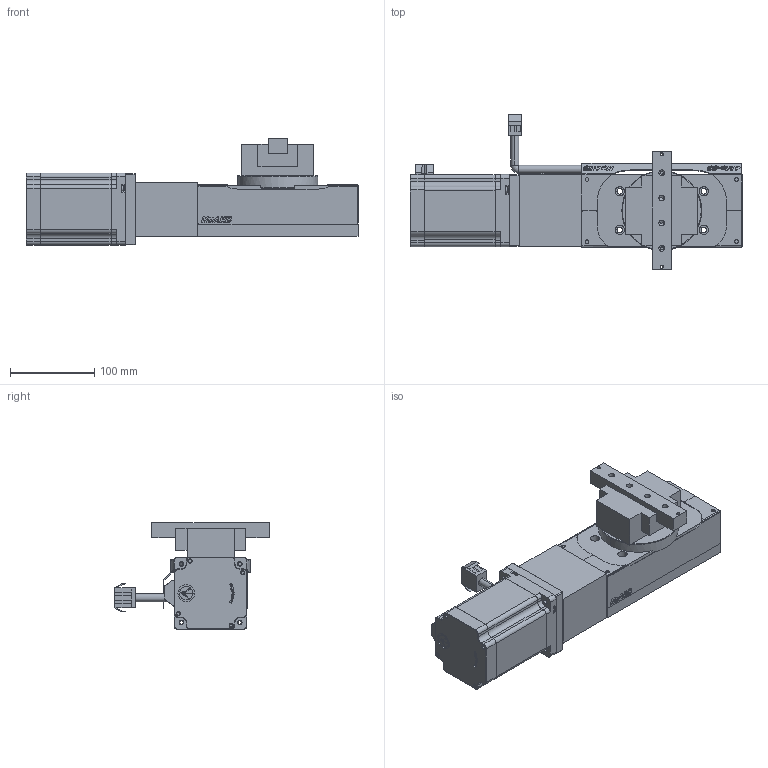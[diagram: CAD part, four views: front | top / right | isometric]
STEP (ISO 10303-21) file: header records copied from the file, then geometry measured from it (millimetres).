
FILE_DESCRIPTION (( 'STEP AP214' ), '1' );
FILE_NAME ('AMe8610p-08L-201-B.STEP', '2022-11-11T06:04:26', ( '' ), ( '' ), 'SwSTEP 2.0', 'SolidWorks 2018', '' );
FILE_SCHEMA (( 'AUTOMOTIVE_DESIGN' ));
Length unit declared in the file: millimetre
Products named in the file (9): AMe86-08坒翐; 86CM85; AMe8610p-15-03B_蕼偞; AMe8010p-15-06B; SC06B014_SCM435(化鎳); NC-JFM-SG-04_蕼偞; AMe8610p-15-04C_蕼偞; AMe6005p-15-10A_蕼偞; AMe8610p-08L-201-B
Assembly tree (10 placements, depth 2):
  AMe8610p-08L-201-B
    SC06B014_SCM435(化鎳)  x3
    AMe8010p-15-06B
    86CM85
    AMe8610p-15-03B_蕼偞
    AMe86-08坒翐
    AMe8610p-15-04C_蕼偞
    AMe6005p-15-10A_蕼偞
    NC-JFM-SG-04_蕼偞
Bounding box: 395.2 x 184.25 x 127 mm (x, y, z)
Volume: 2587473.5 mm3; surface area: 261489.4 mm2
Topology: 34 solids, 34 shells, 1642 faces, 4236 edges, 2719 vertices
Faces by surface type: plane 776, cylinder 389, bspline 249, cone 182, torus 46
Entity records: 62369 total; most frequent: CARTESIAN_POINT 18694, ORIENTED_EDGE 7516, DIRECTION 6538, EDGE_CURVE 3758, VERTEX_POINT 2433, LINE 2368, VECTOR 2368, AXIS2_PLACEMENT_3D 2085
